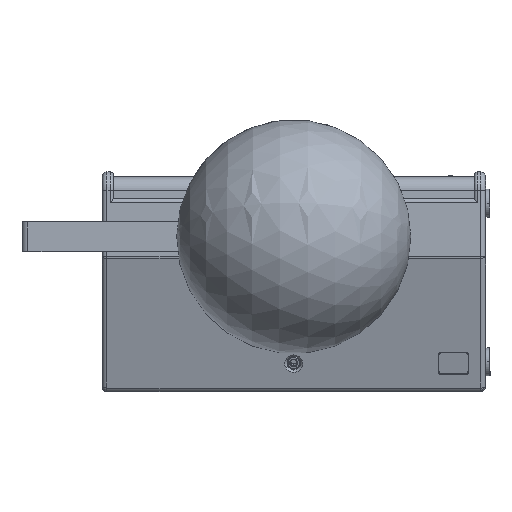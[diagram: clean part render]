
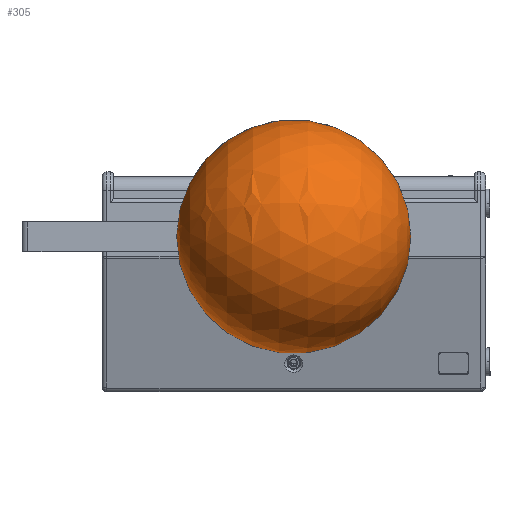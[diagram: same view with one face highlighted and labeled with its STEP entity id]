
A CAD part, left-side view. The second image highlights one B-rep face of the part: STEP entity #305.
In plain terms, the highlighted spherical face has radius 157.25 mm.
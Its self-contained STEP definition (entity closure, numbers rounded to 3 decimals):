
#178 = ORIENTED_EDGE ( 'NONE', *, *, #455, .T. ) ;
#179 = ORIENTED_EDGE ( 'NONE', *, *, #20794, .T. ) ;
#305 = ADVANCED_FACE ( 'NONE', ( #8426 ), #8420, .T. ) ;
#455 = EDGE_CURVE ( 'NONE', #456, #457, #8686, .T. ) ;
#456 = VERTEX_POINT ( 'NONE', #8682 ) ;
#457 = VERTEX_POINT ( 'NONE', #8681 ) ;
#8416 = DIRECTION ( 'NONE',  ( 0.733, 0.68, 0.003 ) ) ;
#8417 = DIRECTION ( 'NONE',  ( 0., 0.004, -1. ) ) ;
#8418 = CARTESIAN_POINT ( 'NONE',  ( -194.25, 87., 242.5 ) ) ;
#8419 = AXIS2_PLACEMENT_3D ( 'NONE', #8418, #8417, #8416 ) ;
#8420 = SPHERICAL_SURFACE ( 'NONE', #8419, 157.25 ) ;
#8426 = FACE_OUTER_BOUND ( 'NONE', #20600, .T. ) ;
#8639 = CARTESIAN_POINT ( 'NONE',  ( -39., 87., 242.5 ) ) ;
#8681 = CARTESIAN_POINT ( 'NONE',  ( -39., 62., 242.5 ) ) ;
#8682 = CARTESIAN_POINT ( 'NONE',  ( -39., 112., 242.5 ) ) ;
#8683 = DIRECTION ( 'NONE',  ( 0., -1., 0. ) ) ;
#8684 = DIRECTION ( 'NONE',  ( -1., 0., 0. ) ) ;
#8685 = AXIS2_PLACEMENT_3D ( 'NONE', #8639, #8684, #8683 ) ;
#8686 = CIRCLE ( 'NONE', #8685, 25. ) ;
#20600 = EDGE_LOOP ( 'NONE', ( #179, #178 ) ) ;
#20794 = EDGE_CURVE ( 'NONE', #457, #456, #26412, .T. ) ;
#26409 = DIRECTION ( 'NONE',  ( 0., -1., 0. ) ) ;
#26410 = DIRECTION ( 'NONE',  ( -1., 0., 0. ) ) ;
#26411 = AXIS2_PLACEMENT_3D ( 'NONE', #26418, #26410, #26409 ) ;
#26412 = CIRCLE ( 'NONE', #26411, 25. ) ;
#26418 = CARTESIAN_POINT ( 'NONE',  ( -39., 87., 242.5 ) ) ;
